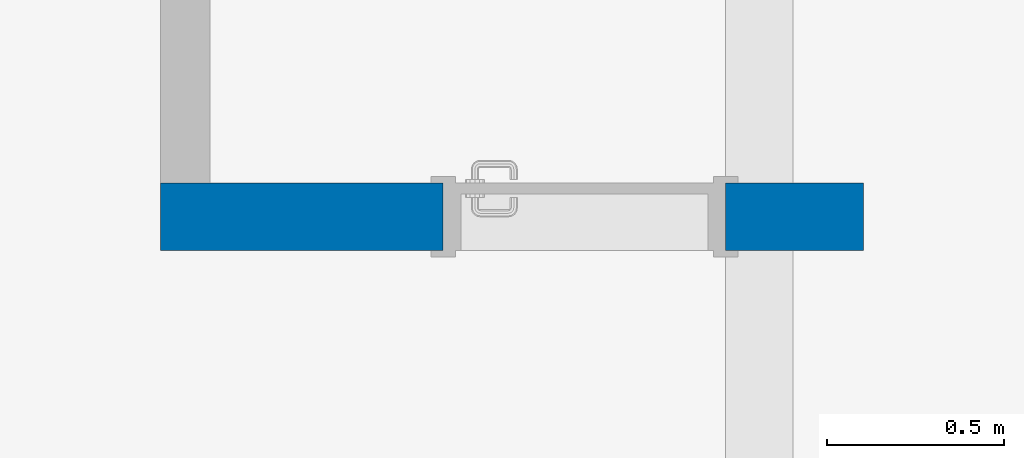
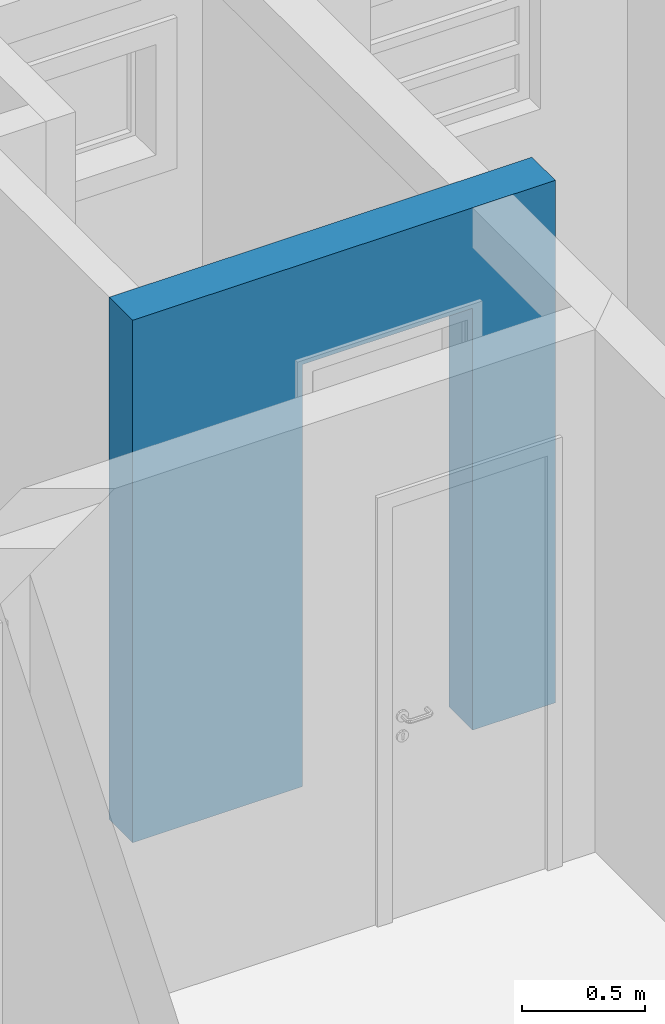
# One storey, part 24 of 47: 1 wall, 1 opening.
"""IFC2X3 building model written with IfcOpenShell, lengths in millimetres."""

from ifc_helpers import new_model, entity, si_unit, converted_unit, derived_unit, money_unit, direction, frame, origin_with_axes, origin_2d_with_axis, place, context, subcontext, project, spatial, polyline, rectangle, outline, extrude, material, layer, layer_set, layer_usage, type_object, element, save


model = new_model("IFC2X3")

# Units and contexts
model_context = context("Model", 3, precision=0.01, world=origin_with_axes(), true_north=direction((0.0, 1.0)))
body_context = subcontext(model_context, "Body", "Model", "MODEL_VIEW")
ifc_project = project(units=[si_unit("LENGTHUNIT", "METRE", prefix="MILLI"), si_unit("AREAUNIT", "SQUARE_METRE"), si_unit("VOLUMEUNIT", "CUBIC_METRE"), converted_unit("PLANEANGLEUNIT", "DEGREE", entity("IfcPlaneAngleMeasure", 0.0174532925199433), si_unit("PLANEANGLEUNIT", "RADIAN"), dimensions=[0, 0, 0, 0, 0, 0, 0]), money_unit("USD"), converted_unit("TIMEUNIT", "Year", entity("IfcTimeMeasure", 31557600.0), si_unit("TIMEUNIT", "SECOND"), dimensions=[0, 0, 1, 0, 0, 0, 0]), si_unit("MASSUNIT", "GRAM", prefix="KILO"), si_unit("THERMODYNAMICTEMPERATUREUNIT", "DEGREE_CELSIUS"), si_unit("LUMINOUSINTENSITYUNIT", "LUMEN"), si_unit("ENERGYUNIT", "JOULE", prefix="MEGA"), derived_unit("THERMALCONDUCTANCEUNIT", [(si_unit("POWERUNIT", "WATT"), 1), (si_unit("LENGTHUNIT", "METRE"), -1), (si_unit("THERMODYNAMICTEMPERATUREUNIT", "KELVIN"), -1)]), derived_unit("SPECIFICHEATCAPACITYUNIT", [(si_unit("ENERGYUNIT", "JOULE"), 1), (si_unit("MASSUNIT", "GRAM", prefix="KILO"), -1), (si_unit("THERMODYNAMICTEMPERATUREUNIT", "KELVIN"), -1)]), derived_unit("MASSDENSITYUNIT", [(si_unit("MASSUNIT", "GRAM", prefix="KILO"), 1), (si_unit("VOLUMEUNIT", "CUBIC_METRE"), -1)])], contexts=[model_context])

# Site, building, storey
site_placement = place(None, origin_with_axes())
site = spatial("IfcSite", under=ifc_project, at=site_placement, Name="Local", CompositionType="ELEMENT")
building_placement = place(site_placement, origin_with_axes())
building = spatial("IfcBuilding", under=site, at=building_placement, Name="Construção", CompositionType="ELEMENT")
storey_placement = place(building_placement, origin_with_axes())
storey = spatial("IfcBuildingStorey", under=building, at=storey_placement, Name="Pavimento Tipo", CompositionType="ELEMENT", Elevation=0.0)

# Wall, opening
ifc_material = material(Name="Concreto - Estrutural")
ifc_layer = layer(ifc_material, 190.0, ventilated="UNKNOWN")
ifc_layer_set = layer_set([ifc_layer], Name="Concreto - Estrutural 190")
ifc_layer_usage = layer_usage(ifc_layer_set, "AXIS2", "POSITIVE", 0.0)
wall_type = type_object("IfcWallType", Name="Concreto - Estrutural 190", PredefinedType="NOTDEFINED")
wall_placement = place(storey_placement, frame((4652.566997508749, 2796.981417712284, 0.0), z_axis=(0.0, 0.0, 1.0), x_axis=(1.0, 0.0, 0.0)))
wall = element("IfcWallStandardCase", 1, at=wall_placement, inside=storey, type_object=wall_type, material=ifc_layer_usage, Name="Apartamento 4 - Parede-092", context=body_context, shape_type="SweptSolid", body=[
    extrude(outline(polyline([(0.0, 0.0), (1990.000000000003, 0.0), (1990.000000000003, 189.9999999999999), (0.0, 189.9999999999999), (0.0, 0.0)])), origin_with_axes(), (0.0, 0.0, 1.0), 2600.0),
])
opening_placement = place(wall_placement, frame((1200.000000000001, 0.0, 0.0), z_axis=(0.0, 0.0, 1.0), x_axis=(1.0, 0.0, 0.0)))
element("IfcOpeningElement", 2, at=opening_placement, cuts=wall, Name="Apartamento 4 - P02", context=body_context, shape_type="SweptSolid", body=[
    extrude(rectangle(XDim=800.0000000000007, YDim=2100.0, at=origin_2d_with_axis()), frame((0.0, 189.9999999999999, 1050.0), z_axis=(0.0, -1.0, 0.0), x_axis=(1.0, 0.0, 0.0)), (0.0, 0.0, 1.0), 570.0000000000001),
    extrude(rectangle(XDim=870.000000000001, YDim=2135.0, at=origin_2d_with_axis()), frame((0.0, 189.9999999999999, 1067.5), z_axis=(0.0, -1.0, 0.0), x_axis=(1.0, 0.0, 0.0)), (0.0, 0.0, -1.0), 190.0),
    extrude(rectangle(XDim=870.000000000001, YDim=2135.0, at=origin_2d_with_axis()), frame((0.0, 0.0, 1067.5), z_axis=(0.0, 1.0, 0.0), x_axis=(1.0, 0.0, 0.0)), (0.0, 0.0, -1.0), 190.0),
])

save(model, "model.ifc")
